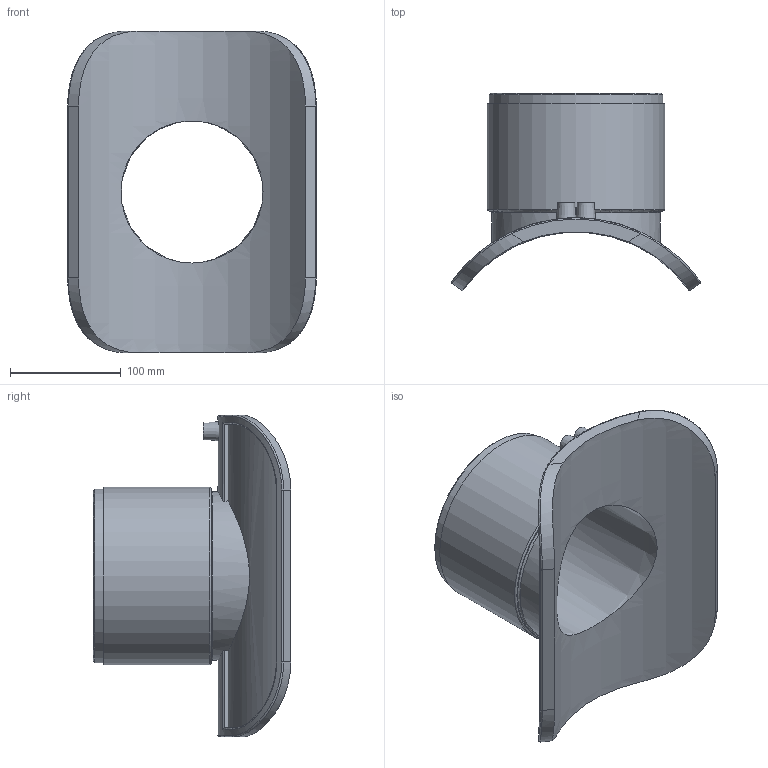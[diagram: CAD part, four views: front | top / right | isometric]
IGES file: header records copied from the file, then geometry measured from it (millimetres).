
Global section: file name: 4758S4250160.ipt; native system: Autodesk Inventor 2015; preprocessor: unknown; author: Кирилл,,11,0; organization: 20170830.202409; date: 20171106.093506; units: millimetre
Bounding box: 224.01 x 178.13 x 290 mm (x, y, z)
Volume: 1351244.8 mm3; surface area: 246634 mm2
Topology: 1 solids, 1 shells, 78 faces, 187 edges, 121 vertices
Faces by surface type: plane 24, cylinder 22, revolution 21, bspline 8, cone 3
Full cylindrical faces by diameter (mm): 4 x2, 152 x1, 156.8 x1, 160 x1
